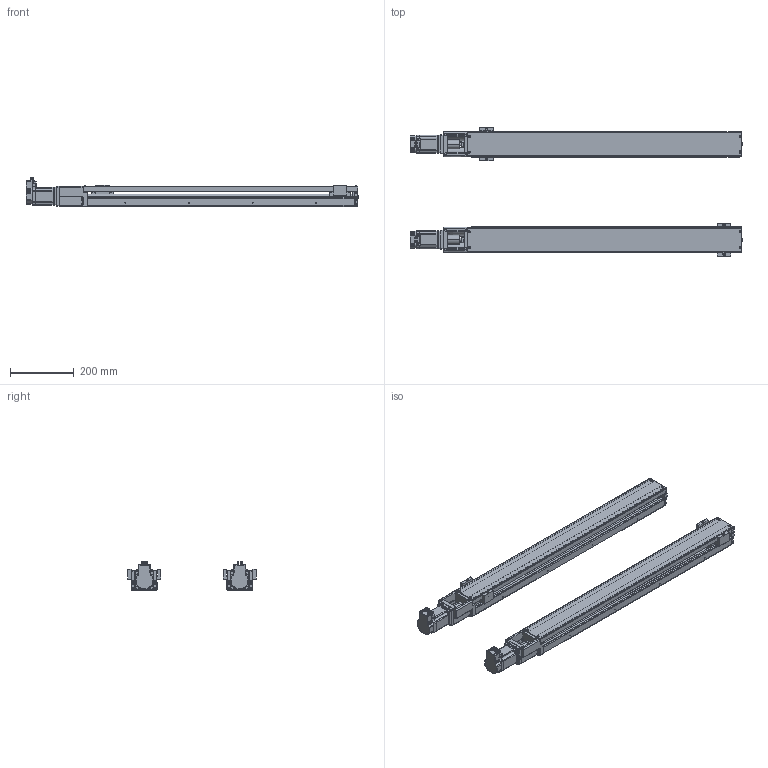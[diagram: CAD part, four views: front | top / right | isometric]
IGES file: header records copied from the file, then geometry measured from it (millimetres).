
Start section: IMSI TurboCAD v14.0
Global section: author: NULL; organization: NULL; date: 20111226.143413; units: millimetre
Bounding box: 1045.01 x 404 x 91.47 mm (x, y, z)
Surface area: 1248805.7 mm2 (no closed solid volume)
Topology: 0 solids, 0 shells, 4680 faces, 23603 edges, 23540 vertices
Faces by surface type: revolution 2676, extrusion 1844, bspline 160
